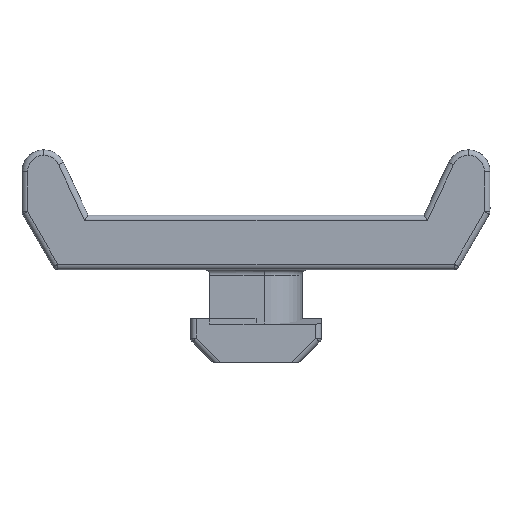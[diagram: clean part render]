
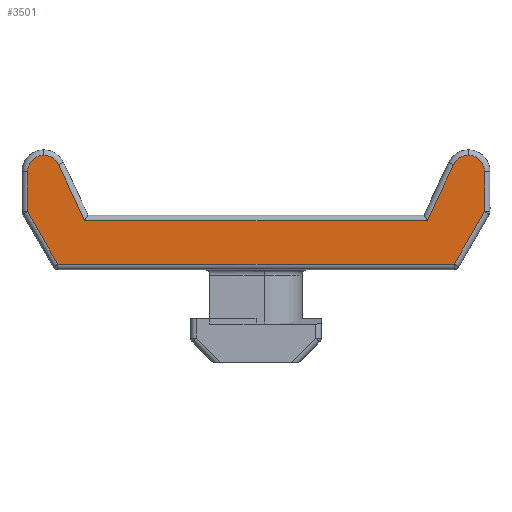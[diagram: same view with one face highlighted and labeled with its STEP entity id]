
A CAD part, left-side view. The second image highlights one B-rep face of the part: STEP entity #3501.
In plain terms, the highlighted planar face has unit normal (-1, 0, 0).
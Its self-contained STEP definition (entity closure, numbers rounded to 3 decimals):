
#1 = DIRECTION ( 'NONE',  ( 0., 0., 1. ) ) ;
#6 = DIRECTION ( 'NONE',  ( -1., 0., 0. ) ) ;
#111 = AXIS2_PLACEMENT_3D ( 'NONE', #4080, #1252, #1 ) ;
#251 = AXIS2_PLACEMENT_3D ( 'NONE', #3425, #6, #3147 ) ;
#255 = EDGE_CURVE ( 'NONE', #1369, #4012, #1398, .T. ) ;
#346 = VERTEX_POINT ( 'NONE', #1218 ) ;
#355 = ORIENTED_EDGE ( 'NONE', *, *, #3158, .T. ) ;
#376 = VECTOR ( 'NONE', #3514, 1000. ) ;
#395 = CIRCLE ( 'NONE', #2708, 1.5 ) ;
#476 = CARTESIAN_POINT ( 'NONE',  ( -7.5, -12.722, -1.983 ) ) ;
#528 = CARTESIAN_POINT ( 'NONE',  ( -7.5, -20.998, 9. ) ) ;
#643 = PLANE ( 'NONE',  #251 ) ;
#658 = DIRECTION ( 'NONE',  ( -1., 0., 0. ) ) ;
#662 = ORIENTED_EDGE ( 'NONE', *, *, #1389, .T. ) ;
#720 = ORIENTED_EDGE ( 'NONE', *, *, #3866, .T. ) ;
#957 = CARTESIAN_POINT ( 'NONE',  ( -7.5, -20.998, 3.95 ) ) ;
#963 = VECTOR ( 'NONE', #2535, 1000. ) ;
#974 = LINE ( 'NONE', #3743, #2188 ) ;
#992 = VERTEX_POINT ( 'NONE', #1073 ) ;
#1041 = EDGE_LOOP ( 'NONE', ( #3411, #662, #3606, #3749, #355, #3228, #3373, #2167, #1121, #2460, #2253, #720 ) ) ;
#1070 = VECTOR ( 'NONE', #2853, 1000. ) ;
#1071 = LINE ( 'NONE', #2331, #3439 ) ;
#1073 = CARTESIAN_POINT ( 'NONE',  ( -7.5, 20.998, 9. ) ) ;
#1092 = DIRECTION ( 'NONE',  ( 0., 0., 1. ) ) ;
#1121 = ORIENTED_EDGE ( 'NONE', *, *, #1368, .T. ) ;
#1210 = VECTOR ( 'NONE', #3083, 1000. ) ;
#1218 = CARTESIAN_POINT ( 'NONE',  ( -7.5, 15.745, 4.5 ) ) ;
#1252 = DIRECTION ( 'NONE',  ( -1., 0., 0. ) ) ;
#1278 = VERTEX_POINT ( 'NONE', #2827 ) ;
#1279 = DIRECTION ( 'NONE',  ( 0., 0., -1. ) ) ;
#1290 = CARTESIAN_POINT ( 'NONE',  ( -7.5, 19.498, 9. ) ) ;
#1351 = AXIS2_PLACEMENT_3D ( 'NONE', #1290, #658, #1909 ) ;
#1368 = EDGE_CURVE ( 'NONE', #1278, #2129, #3336, .T. ) ;
#1369 = VERTEX_POINT ( 'NONE', #1604 ) ;
#1389 = EDGE_CURVE ( 'NONE', #1698, #1885, #2552, .T. ) ;
#1398 = LINE ( 'NONE', #476, #2914 ) ;
#1409 = CARTESIAN_POINT ( 'NONE',  ( -7.5, 20.998, 5.33 ) ) ;
#1425 = DIRECTION ( 'NONE',  ( -1., 0., 0. ) ) ;
#1541 = AXIS2_PLACEMENT_3D ( 'NONE', #3218, #1983, #2006 ) ;
#1555 = CARTESIAN_POINT ( 'NONE',  ( -7.5, 0., 0.5 ) ) ;
#1595 = LINE ( 'NONE', #957, #1210 ) ;
#1604 = CARTESIAN_POINT ( 'NONE',  ( -7.5, -18.139, 9.634 ) ) ;
#1667 = CARTESIAN_POINT ( 'NONE',  ( -7.5, 0., 4.5 ) ) ;
#1698 = VERTEX_POINT ( 'NONE', #2471 ) ;
#1810 = CARTESIAN_POINT ( 'NONE',  ( -7.5, -19.498, 10.5 ) ) ;
#1828 = EDGE_CURVE ( 'NONE', #2313, #1698, #3481, .T. ) ;
#1863 = CARTESIAN_POINT ( 'NONE',  ( -7.5, -20.998, 5.33 ) ) ;
#1885 = VERTEX_POINT ( 'NONE', #1863 ) ;
#1899 = EDGE_CURVE ( 'NONE', #1885, #3178, #1595, .T. ) ;
#1901 = CIRCLE ( 'NONE', #111, 1.5 ) ;
#1909 = DIRECTION ( 'NONE',  ( 0., 0., 1. ) ) ;
#1983 = DIRECTION ( 'NONE',  ( -1., 0., 0. ) ) ;
#2006 = DIRECTION ( 'NONE',  ( 0., 0., 1. ) ) ;
#2032 = VECTOR ( 'NONE', #3552, 1000. ) ;
#2129 = VERTEX_POINT ( 'NONE', #3344 ) ;
#2167 = ORIENTED_EDGE ( 'NONE', *, *, #3184, .T. ) ;
#2188 = VECTOR ( 'NONE', #1279, 1000. ) ;
#2253 = ORIENTED_EDGE ( 'NONE', *, *, #2486, .T. ) ;
#2295 = EDGE_CURVE ( 'NONE', #2129, #992, #3720, .T. ) ;
#2313 = VERTEX_POINT ( 'NONE', #3820 ) ;
#2331 = CARTESIAN_POINT ( 'NONE',  ( -7.5, 12.722, -1.983 ) ) ;
#2371 = CARTESIAN_POINT ( 'NONE',  ( -7.5, -15.745, 4.5 ) ) ;
#2408 = LINE ( 'NONE', #1667, #376 ) ;
#2460 = ORIENTED_EDGE ( 'NONE', *, *, #2295, .T. ) ;
#2471 = CARTESIAN_POINT ( 'NONE',  ( -7.5, -18.209, 0.5 ) ) ;
#2486 = EDGE_CURVE ( 'NONE', #992, #3442, #974, .T. ) ;
#2515 = FACE_OUTER_BOUND ( 'NONE', #1041, .T. ) ;
#2535 = DIRECTION ( 'NONE',  ( 0., -0.5, 0.866 ) ) ;
#2552 = LINE ( 'NONE', #3823, #963 ) ;
#2677 = CARTESIAN_POINT ( 'NONE',  ( -7.5, 15.151, -4.798 ) ) ;
#2708 = AXIS2_PLACEMENT_3D ( 'NONE', #3922, #1425, #1092 ) ;
#2721 = LINE ( 'NONE', #2677, #2032 ) ;
#2827 = CARTESIAN_POINT ( 'NONE',  ( -7.5, 18.139, 9.634 ) ) ;
#2853 = DIRECTION ( 'NONE',  ( 0., -1., 0. ) ) ;
#2914 = VECTOR ( 'NONE', #3918, 1000. ) ;
#3083 = DIRECTION ( 'NONE',  ( 0., 0., 1. ) ) ;
#3147 = DIRECTION ( 'NONE',  ( 0., 0., 1. ) ) ;
#3158 = EDGE_CURVE ( 'NONE', #3773, #1369, #395, .T. ) ;
#3178 = VERTEX_POINT ( 'NONE', #528 ) ;
#3184 = EDGE_CURVE ( 'NONE', #346, #1278, #1071, .T. ) ;
#3218 = CARTESIAN_POINT ( 'NONE',  ( -7.5, 19.498, 9. ) ) ;
#3228 = ORIENTED_EDGE ( 'NONE', *, *, #255, .T. ) ;
#3336 = CIRCLE ( 'NONE', #1351, 1.5 ) ;
#3344 = CARTESIAN_POINT ( 'NONE',  ( -7.5, 19.498, 10.5 ) ) ;
#3373 = ORIENTED_EDGE ( 'NONE', *, *, #3871, .T. ) ;
#3411 = ORIENTED_EDGE ( 'NONE', *, *, #1828, .T. ) ;
#3425 = CARTESIAN_POINT ( 'NONE',  ( -7.5, 0., 3.95 ) ) ;
#3439 = VECTOR ( 'NONE', #3595, 1000. ) ;
#3442 = VERTEX_POINT ( 'NONE', #1409 ) ;
#3481 = LINE ( 'NONE', #1555, #1070 ) ;
#3501 = ADVANCED_FACE ( 'NONE', ( #2515 ), #643, .T. ) ;
#3514 = DIRECTION ( 'NONE',  ( 0., 1., 0. ) ) ;
#3552 = DIRECTION ( 'NONE',  ( 0., -0.5, -0.866 ) ) ;
#3595 = DIRECTION ( 'NONE',  ( 0., 0.423, 0.906 ) ) ;
#3606 = ORIENTED_EDGE ( 'NONE', *, *, #1899, .T. ) ;
#3720 = CIRCLE ( 'NONE', #1541, 1.5 ) ;
#3723 = EDGE_CURVE ( 'NONE', #3178, #3773, #1901, .T. ) ;
#3743 = CARTESIAN_POINT ( 'NONE',  ( -7.5, 20.998, 3.95 ) ) ;
#3749 = ORIENTED_EDGE ( 'NONE', *, *, #3723, .T. ) ;
#3773 = VERTEX_POINT ( 'NONE', #1810 ) ;
#3820 = CARTESIAN_POINT ( 'NONE',  ( -7.5, 18.209, 0.5 ) ) ;
#3823 = CARTESIAN_POINT ( 'NONE',  ( -7.5, -15.151, -4.798 ) ) ;
#3866 = EDGE_CURVE ( 'NONE', #3442, #2313, #2721, .T. ) ;
#3871 = EDGE_CURVE ( 'NONE', #4012, #346, #2408, .T. ) ;
#3918 = DIRECTION ( 'NONE',  ( 0., 0.423, -0.906 ) ) ;
#3922 = CARTESIAN_POINT ( 'NONE',  ( -7.5, -19.498, 9. ) ) ;
#4012 = VERTEX_POINT ( 'NONE', #2371 ) ;
#4080 = CARTESIAN_POINT ( 'NONE',  ( -7.5, -19.498, 9. ) ) ;
